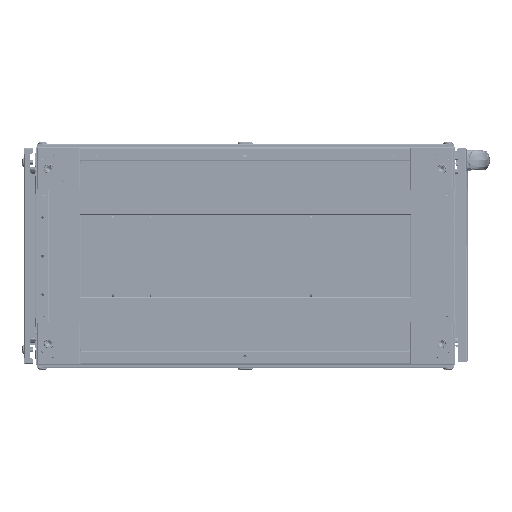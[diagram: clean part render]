
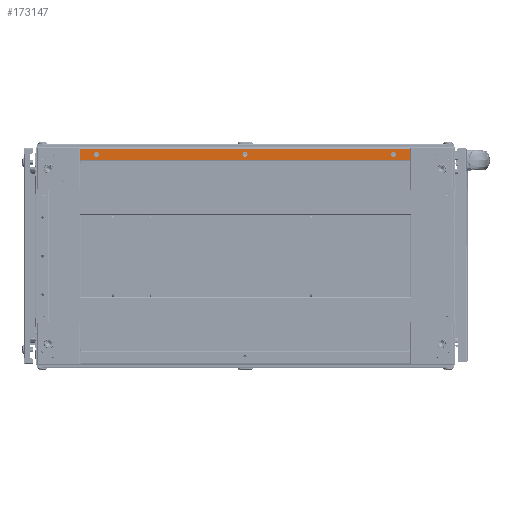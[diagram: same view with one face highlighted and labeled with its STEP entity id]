
A CAD part, front view. The second image highlights one B-rep face of the part: STEP entity #173147.
In plain terms, the highlighted planar face has unit normal (0, -1, 0) as drawn and (0, 0, -1) by its records, which use the part's own axes.
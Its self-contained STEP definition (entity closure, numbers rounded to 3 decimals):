
#8715 = PLANE ( 'NONE',  #161267 ) ;
#9733 = VERTEX_POINT ( 'NONE', #597626 ) ;
#19997 = ORIENTED_EDGE ( 'NONE', *, *, #664665, .F. ) ;
#21537 = CARTESIAN_POINT ( 'NONE',  ( 604., 23., -98.01 ) ) ;
#24387 = EDGE_CURVE ( 'NONE', #77765, #447625, #116387, .T. ) ;
#24607 = LINE ( 'NONE', #682625, #538695 ) ;
#38977 = EDGE_CURVE ( 'NONE', #77765, #476600, #24607, .T. ) ;
#49127 = VECTOR ( 'NONE', #632481, 1000. ) ;
#57206 = CARTESIAN_POINT ( 'NONE',  ( 30.037, 7.36, -98.01 ) ) ;
#60243 = CARTESIAN_POINT ( 'NONE',  ( 30.037, 12.01, -98.01 ) ) ;
#62671 = FACE_BOUND ( 'NONE', #464065, .T. ) ;
#68608 = EDGE_LOOP ( 'NONE', ( #19997, #242886 ) ) ;
#69776 = FACE_BOUND ( 'NONE', #246033, .T. ) ;
#73272 = FACE_BOUND ( 'NONE', #68608, .T. ) ;
#77765 = VERTEX_POINT ( 'NONE', #433967 ) ;
#82781 = CIRCLE ( 'NONE', #415871, 4.65 ) ;
#97176 = DIRECTION ( 'NONE',  ( 0., 0., -1. ) ) ;
#115531 = ORIENTED_EDGE ( 'NONE', *, *, #385033, .T. ) ;
#116387 = LINE ( 'NONE', #335716, #340767 ) ;
#126018 = DIRECTION ( 'NONE',  ( 0., 0., 1. ) ) ;
#161267 = AXIS2_PLACEMENT_3D ( 'NONE', #403996, #289106, #623382 ) ;
#169535 = CARTESIAN_POINT ( 'NONE',  ( 573.963, 12.01, -98.01 ) ) ;
#173147 = ADVANCED_FACE ( 'NONE', ( #62671, #73272, #69776, #569397 ), #8715, .F. ) ;
#178207 = DIRECTION ( 'NONE',  ( 0., -1., 0. ) ) ;
#180307 = CARTESIAN_POINT ( 'NONE',  ( 0., 23., -98.01 ) ) ;
#182586 = ORIENTED_EDGE ( 'NONE', *, *, #579195, .T. ) ;
#201527 = CARTESIAN_POINT ( 'NONE',  ( 573.963, 12.01, -98.01 ) ) ;
#215011 = CIRCLE ( 'NONE', #237597, 4.65 ) ;
#215900 = ORIENTED_EDGE ( 'NONE', *, *, #38977, .F. ) ;
#223535 = VERTEX_POINT ( 'NONE', #356293 ) ;
#232598 = CARTESIAN_POINT ( 'NONE',  ( 302., 12.01, -98.01 ) ) ;
#237597 = AXIS2_PLACEMENT_3D ( 'NONE', #169535, #449847, #388815 ) ;
#238486 = VERTEX_POINT ( 'NONE', #57206 ) ;
#242886 = ORIENTED_EDGE ( 'NONE', *, *, #587940, .F. ) ;
#246033 = EDGE_LOOP ( 'NONE', ( #264159, #333881 ) ) ;
#254842 = CARTESIAN_POINT ( 'NONE',  ( 297.35, 12.01, -98.01 ) ) ;
#263738 = CARTESIAN_POINT ( 'NONE',  ( 30.037, 16.66, -98.01 ) ) ;
#264159 = ORIENTED_EDGE ( 'NONE', *, *, #455504, .T. ) ;
#267524 = EDGE_CURVE ( 'NONE', #238486, #314071, #436169, .T. ) ;
#274725 = DIRECTION ( 'NONE',  ( 0., 1., 0. ) ) ;
#283095 = DIRECTION ( 'NONE',  ( 0., -1., 0. ) ) ;
#286570 = ORIENTED_EDGE ( 'NONE', *, *, #267524, .F. ) ;
#289106 = DIRECTION ( 'NONE',  ( 0., 0., 1. ) ) ;
#298573 = CARTESIAN_POINT ( 'NONE',  ( 302., 12.01, -98.01 ) ) ;
#312987 = DIRECTION ( 'NONE',  ( 0., 0., -1. ) ) ;
#314071 = VERTEX_POINT ( 'NONE', #263738 ) ;
#320228 = CARTESIAN_POINT ( 'NONE',  ( 573.963, 7.36, -98.01 ) ) ;
#333881 = ORIENTED_EDGE ( 'NONE', *, *, #422597, .T. ) ;
#335716 = CARTESIAN_POINT ( 'NONE',  ( 0., 23., -98.01 ) ) ;
#340767 = VECTOR ( 'NONE', #274725, 1000. ) ;
#344778 = DIRECTION ( 'NONE',  ( 1., 0., 0. ) ) ;
#356293 = CARTESIAN_POINT ( 'NONE',  ( 306.65, 12.01, -98.01 ) ) ;
#367492 = AXIS2_PLACEMENT_3D ( 'NONE', #201527, #312987, #532286 ) ;
#373976 = DIRECTION ( 'NONE',  ( 0., -1., 0. ) ) ;
#384381 = CIRCLE ( 'NONE', #613810, 4.65 ) ;
#384602 = CARTESIAN_POINT ( 'NONE',  ( 30.037, 12.01, -98.01 ) ) ;
#385033 = EDGE_CURVE ( 'NONE', #447625, #442835, #409505, .T. ) ;
#388815 = DIRECTION ( 'NONE',  ( 0., 1., 0. ) ) ;
#396517 = EDGE_CURVE ( 'NONE', #314071, #238486, #641852, .T. ) ;
#403996 = CARTESIAN_POINT ( 'NONE',  ( 604., 23., -98.01 ) ) ;
#409505 = LINE ( 'NONE', #413099, #49127 ) ;
#413099 = CARTESIAN_POINT ( 'NONE',  ( 604., 23., -98.01 ) ) ;
#415871 = AXIS2_PLACEMENT_3D ( 'NONE', #298573, #126018, #510746 ) ;
#422597 = EDGE_CURVE ( 'NONE', #520488, #223535, #82781, .T. ) ;
#424173 = EDGE_LOOP ( 'NONE', ( #215900, #530293, #115531, #182586 ) ) ;
#433967 = CARTESIAN_POINT ( 'NONE',  ( 0., 1.51, -98.01 ) ) ;
#434961 = AXIS2_PLACEMENT_3D ( 'NONE', #60243, #667852, #283095 ) ;
#436169 = CIRCLE ( 'NONE', #550648, 4.65 ) ;
#442835 = VERTEX_POINT ( 'NONE', #21537 ) ;
#443026 = CARTESIAN_POINT ( 'NONE',  ( 604., 1.51, -98.01 ) ) ;
#447625 = VERTEX_POINT ( 'NONE', #180307 ) ;
#449847 = DIRECTION ( 'NONE',  ( 0., 0., -1. ) ) ;
#455504 = EDGE_CURVE ( 'NONE', #223535, #520488, #384381, .T. ) ;
#464065 = EDGE_LOOP ( 'NONE', ( #590749, #286570 ) ) ;
#476600 = VERTEX_POINT ( 'NONE', #443026 ) ;
#505906 = DIRECTION ( 'NONE',  ( 0., -1., 0. ) ) ;
#510746 = DIRECTION ( 'NONE',  ( 0., -1., 0. ) ) ;
#520488 = VERTEX_POINT ( 'NONE', #254842 ) ;
#530293 = ORIENTED_EDGE ( 'NONE', *, *, #24387, .T. ) ;
#532286 = DIRECTION ( 'NONE',  ( 0., 1., 0. ) ) ;
#538695 = VECTOR ( 'NONE', #344778, 1000. ) ;
#550648 = AXIS2_PLACEMENT_3D ( 'NONE', #384602, #97176, #373976 ) ;
#552775 = DIRECTION ( 'NONE',  ( 0., 0., 1. ) ) ;
#569397 = FACE_OUTER_BOUND ( 'NONE', #424173, .T. ) ;
#579195 = EDGE_CURVE ( 'NONE', #442835, #476600, #609848, .T. ) ;
#587940 = EDGE_CURVE ( 'NONE', #675822, #9733, #215011, .T. ) ;
#590749 = ORIENTED_EDGE ( 'NONE', *, *, #396517, .F. ) ;
#597626 = CARTESIAN_POINT ( 'NONE',  ( 573.963, 16.66, -98.01 ) ) ;
#609848 = LINE ( 'NONE', #623979, #657703 ) ;
#613810 = AXIS2_PLACEMENT_3D ( 'NONE', #232598, #552775, #505906 ) ;
#623382 = DIRECTION ( 'NONE',  ( 0., -1., 0. ) ) ;
#623979 = CARTESIAN_POINT ( 'NONE',  ( 604., 23., -98.01 ) ) ;
#632481 = DIRECTION ( 'NONE',  ( 1., 0., 0. ) ) ;
#641852 = CIRCLE ( 'NONE', #434961, 4.65 ) ;
#657703 = VECTOR ( 'NONE', #178207, 1000. ) ;
#664665 = EDGE_CURVE ( 'NONE', #9733, #675822, #677550, .T. ) ;
#667852 = DIRECTION ( 'NONE',  ( 0., 0., -1. ) ) ;
#675822 = VERTEX_POINT ( 'NONE', #320228 ) ;
#677550 = CIRCLE ( 'NONE', #367492, 4.65 ) ;
#682625 = CARTESIAN_POINT ( 'NONE',  ( 604., 1.51, -98.01 ) ) ;
